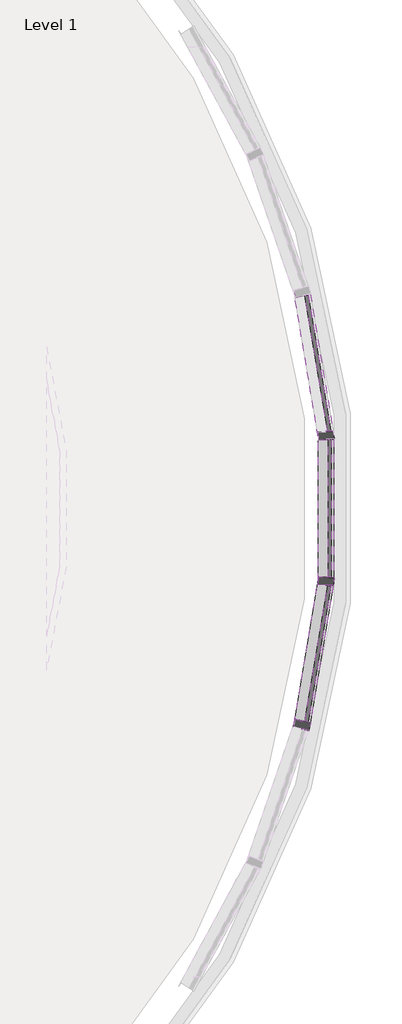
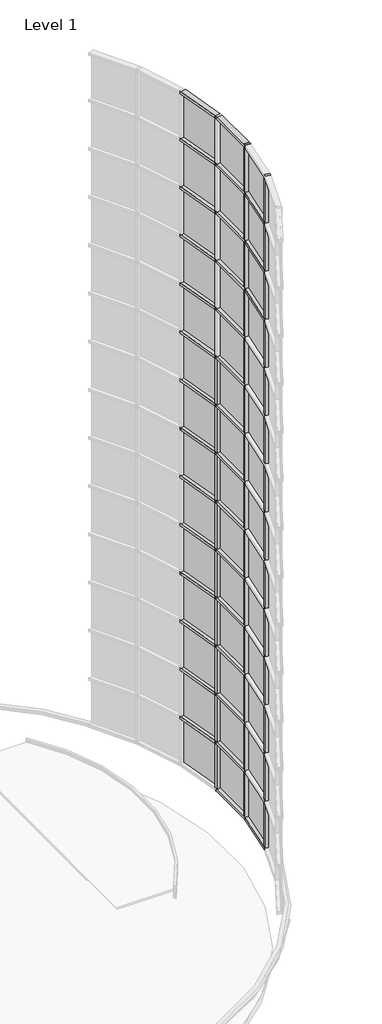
# One storey, part 8 of 20: 70 members, 42 plates.
"""IFC4 building model written with IfcOpenShell, lengths in millimetres."""

from ifc_helpers import new_model, si_unit, origin, place, context, project, spatial, transform, mapped, element, save
from components import member_68fe8548, member_f830fa99, member_935f61b8, system_panel_glazed_da602fa6, system_panel_glazed_77fd207e

model = new_model("IFC4")

# Units and contexts
model_context = context("Model", 3, world=origin())
ifc_project = project(units=[si_unit("LENGTHUNIT", "METRE", prefix="MILLI")], contexts=[model_context])

# Site, building, storey
site = spatial("IfcSite", under=ifc_project)
building = spatial("IfcBuilding", under=site)
storey = spatial("IfcBuildingStorey", under=building, Name="Level 1", Elevation=0.0)

# Members
placement = place(None, origin())
member_shape = member_68fe8548(model_context)
element("IfcMember", 1, ObjectType="Rectangular Mullion : 2.5\" x 5\" rectangular", at=placement, inside=storey, context=model_context, shape_type="MappedRepresentation", body=[
    mapped(member_shape, transform((25047.3123322, -1884.960282, 17983.2), x_axis=(0.0, 0.0, 1.0), y_axis=(-0.9863613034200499, -0.1645945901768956, 0.0), z_axis=(0.1645945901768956, -0.9863613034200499, 0.0))),
])
element("IfcMember", 2, ObjectType="Rectangular Mullion : 2.5\" x 5\" rectangular", at=placement, inside=storey, context=model_context, shape_type="MappedRepresentation", body=[
    mapped(member_shape, transform((25052.5382104, -3063.5930828, 17983.2), x_axis=(0.0, 0.0, 1.0), y_axis=(-1.0, 0.0, 0.0), z_axis=(0.0, -1.0, 0.0))),
])
element("IfcMember", 3, ObjectType="Rectangular Mullion : 2.5\" x 5\" rectangular", at=placement, inside=storey, context=model_context, shape_type="MappedRepresentation", body=[
    mapped(member_shape, transform((25052.5382104, -1948.0272534, 1092.2), x_axis=(0.0, 0.0, -1.0), y_axis=(-1.0, 0.0, 0.0), z_axis=(0.0, 1.0, 0.0))),
])
element("IfcMember", 4, ObjectType="Rectangular Mullion : 2.5\" x 5\" rectangular", at=placement, inside=storey, context=model_context, shape_type="MappedRepresentation", body=[
    mapped(member_shape, transform((25047.3123322, -3126.6600542, 1092.2), x_axis=(0.0, 0.0, -1.0), y_axis=(-0.9863613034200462, 0.16459459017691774, 0.0), z_axis=(0.16459459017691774, 0.9863613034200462, 0.0))),
])
member_2_shape = member_f830fa99(model_context)
element("IfcMember", 5, ObjectType="Rectangular Mullion : 2.5\" x 5\" rectangular", at=placement, inside=storey, context=model_context, shape_type="MappedRepresentation", body=[
    mapped(member_2_shape, transform((25047.3123322, -1884.960282, 2298.7), x_axis=(0.0, 0.0, 1.0), y_axis=(-0.9863613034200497, -0.16459459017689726, 0.0), z_axis=(0.16459459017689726, -0.9863613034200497, 0.0))),
])
element("IfcMember", 6, ObjectType="Rectangular Mullion : 2.5\" x 5\" rectangular", at=placement, inside=storey, context=model_context, shape_type="MappedRepresentation", body=[
    mapped(member_2_shape, transform((25052.5382104, -3063.5930828, 2298.7), x_axis=(0.0, 0.0, 1.0), y_axis=(-1.0, 0.0, 0.0), z_axis=(0.0, -1.0, 0.0))),
])
element("IfcMember", 7, ObjectType="Rectangular Mullion : 2.5\" x 5\" rectangular", at=placement, inside=storey, context=model_context, shape_type="MappedRepresentation", body=[
    mapped(member_2_shape, transform((25047.3123322, -1884.960282, 3505.2), x_axis=(0.0, 0.0, 1.0), y_axis=(-0.9863613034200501, -0.16459459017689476, 0.0), z_axis=(0.16459459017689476, -0.9863613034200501, 0.0))),
])
element("IfcMember", 8, ObjectType="Rectangular Mullion : 2.5\" x 5\" rectangular", at=placement, inside=storey, context=model_context, shape_type="MappedRepresentation", body=[
    mapped(member_2_shape, transform((25052.5382104, -3063.5930828, 3505.2), x_axis=(0.0, 0.0, 1.0), y_axis=(-1.0, 0.0, 0.0), z_axis=(0.0, -1.0, 0.0))),
])
element("IfcMember", 9, ObjectType="Rectangular Mullion : 2.5\" x 5\" rectangular", at=placement, inside=storey, context=model_context, shape_type="MappedRepresentation", body=[
    mapped(member_2_shape, transform((25047.3123322, -1884.960282, 4711.7), x_axis=(0.0, 0.0, 1.0), y_axis=(-0.9863613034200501, -0.16459459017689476, 0.0), z_axis=(0.16459459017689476, -0.9863613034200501, 0.0))),
])
element("IfcMember", 10, ObjectType="Rectangular Mullion : 2.5\" x 5\" rectangular", at=placement, inside=storey, context=model_context, shape_type="MappedRepresentation", body=[
    mapped(member_2_shape, transform((25052.5382104, -3063.5930828, 4711.7), x_axis=(0.0, 0.0, 1.0), y_axis=(-1.0, 0.0, 0.0), z_axis=(0.0, -1.0, 0.0))),
])
element("IfcMember", 11, ObjectType="Rectangular Mullion : 2.5\" x 5\" rectangular", at=placement, inside=storey, context=model_context, shape_type="MappedRepresentation", body=[
    mapped(member_2_shape, transform((25047.3123322, -1884.960282, 5918.2), x_axis=(0.0, 0.0, 1.0), y_axis=(-0.9863613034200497, -0.16459459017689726, 0.0), z_axis=(0.16459459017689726, -0.9863613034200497, 0.0))),
])
element("IfcMember", 12, ObjectType="Rectangular Mullion : 2.5\" x 5\" rectangular", at=placement, inside=storey, context=model_context, shape_type="MappedRepresentation", body=[
    mapped(member_2_shape, transform((25052.5382104, -3063.5930828, 5918.2), x_axis=(0.0, 0.0, 1.0), y_axis=(-1.0, 0.0, 0.0), z_axis=(0.0, -1.0, 0.0))),
])
element("IfcMember", 13, ObjectType="Rectangular Mullion : 2.5\" x 5\" rectangular", at=placement, inside=storey, context=model_context, shape_type="MappedRepresentation", body=[
    mapped(member_2_shape, transform((25047.3123322, -1884.960282, 7124.7), x_axis=(0.0, 0.0, 1.0), y_axis=(-0.9863613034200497, -0.16459459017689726, 0.0), z_axis=(0.16459459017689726, -0.9863613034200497, 0.0))),
])
element("IfcMember", 14, ObjectType="Rectangular Mullion : 2.5\" x 5\" rectangular", at=placement, inside=storey, context=model_context, shape_type="MappedRepresentation", body=[
    mapped(member_2_shape, transform((25052.5382104, -3063.5930828, 7124.7), x_axis=(0.0, 0.0, 1.0), y_axis=(-1.0, 0.0, 0.0), z_axis=(0.0, -1.0, 0.0))),
])
element("IfcMember", 15, ObjectType="Rectangular Mullion : 2.5\" x 5\" rectangular", at=placement, inside=storey, context=model_context, shape_type="MappedRepresentation", body=[
    mapped(member_2_shape, transform((25047.3123322, -1884.960282, 8331.2), x_axis=(0.0, 0.0, 1.0), y_axis=(-0.9863613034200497, -0.16459459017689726, 0.0), z_axis=(0.16459459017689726, -0.9863613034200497, 0.0))),
])
element("IfcMember", 16, ObjectType="Rectangular Mullion : 2.5\" x 5\" rectangular", at=placement, inside=storey, context=model_context, shape_type="MappedRepresentation", body=[
    mapped(member_2_shape, transform((25052.5382104, -3063.5930828, 8331.2), x_axis=(0.0, 0.0, 1.0), y_axis=(-1.0, 0.0, 0.0), z_axis=(0.0, -1.0, 0.0))),
])
element("IfcMember", 17, ObjectType="Rectangular Mullion : 2.5\" x 5\" rectangular", at=placement, inside=storey, context=model_context, shape_type="MappedRepresentation", body=[
    mapped(member_2_shape, transform((25047.3123322, -1884.960282, 9537.7), x_axis=(0.0, 0.0, 1.0), y_axis=(-0.9863613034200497, -0.16459459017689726, 0.0), z_axis=(0.16459459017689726, -0.9863613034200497, 0.0))),
])
element("IfcMember", 18, ObjectType="Rectangular Mullion : 2.5\" x 5\" rectangular", at=placement, inside=storey, context=model_context, shape_type="MappedRepresentation", body=[
    mapped(member_2_shape, transform((25052.5382104, -3063.5930828, 9537.7), x_axis=(0.0, 0.0, 1.0), y_axis=(-1.0, 0.0, 0.0), z_axis=(0.0, -1.0, 0.0))),
])
element("IfcMember", 19, ObjectType="Rectangular Mullion : 2.5\" x 5\" rectangular", at=placement, inside=storey, context=model_context, shape_type="MappedRepresentation", body=[
    mapped(member_2_shape, transform((25047.3123322, -1884.960282, 10744.2), x_axis=(0.0, 0.0, 1.0), y_axis=(-0.9863613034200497, -0.16459459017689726, 0.0), z_axis=(0.16459459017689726, -0.9863613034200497, 0.0))),
])
element("IfcMember", 20, ObjectType="Rectangular Mullion : 2.5\" x 5\" rectangular", at=placement, inside=storey, context=model_context, shape_type="MappedRepresentation", body=[
    mapped(member_2_shape, transform((25052.5382104, -3063.5930828, 10744.2), x_axis=(0.0, 0.0, 1.0), y_axis=(-1.0, 0.0, 0.0), z_axis=(0.0, -1.0, 0.0))),
])
element("IfcMember", 21, ObjectType="Rectangular Mullion : 2.5\" x 5\" rectangular", at=placement, inside=storey, context=model_context, shape_type="MappedRepresentation", body=[
    mapped(member_2_shape, transform((25047.3123322, -1884.960282, 11950.7), x_axis=(0.0, 0.0, 1.0), y_axis=(-0.9863613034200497, -0.16459459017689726, 0.0), z_axis=(0.16459459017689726, -0.9863613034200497, 0.0))),
])
element("IfcMember", 22, ObjectType="Rectangular Mullion : 2.5\" x 5\" rectangular", at=placement, inside=storey, context=model_context, shape_type="MappedRepresentation", body=[
    mapped(member_2_shape, transform((25052.5382104, -3063.5930828, 11950.7), x_axis=(0.0, 0.0, 1.0), y_axis=(-1.0, 0.0, 0.0), z_axis=(0.0, -1.0, 0.0))),
])
element("IfcMember", 23, ObjectType="Rectangular Mullion : 2.5\" x 5\" rectangular", at=placement, inside=storey, context=model_context, shape_type="MappedRepresentation", body=[
    mapped(member_2_shape, transform((25047.3123322, -1884.960282, 13157.2), x_axis=(0.0, 0.0, 1.0), y_axis=(-0.9863613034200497, -0.16459459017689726, 0.0), z_axis=(0.16459459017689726, -0.9863613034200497, 0.0))),
])
element("IfcMember", 24, ObjectType="Rectangular Mullion : 2.5\" x 5\" rectangular", at=placement, inside=storey, context=model_context, shape_type="MappedRepresentation", body=[
    mapped(member_2_shape, transform((25052.5382104, -3063.5930828, 13157.2), x_axis=(0.0, 0.0, 1.0), y_axis=(-1.0, 0.0, 0.0), z_axis=(0.0, -1.0, 0.0))),
])
element("IfcMember", 25, ObjectType="Rectangular Mullion : 2.5\" x 5\" rectangular", at=placement, inside=storey, context=model_context, shape_type="MappedRepresentation", body=[
    mapped(member_2_shape, transform((25047.3123322, -1884.960282, 14363.7), x_axis=(0.0, 0.0, 1.0), y_axis=(-0.9863613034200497, -0.16459459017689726, 0.0), z_axis=(0.16459459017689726, -0.9863613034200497, 0.0))),
])
element("IfcMember", 26, ObjectType="Rectangular Mullion : 2.5\" x 5\" rectangular", at=placement, inside=storey, context=model_context, shape_type="MappedRepresentation", body=[
    mapped(member_2_shape, transform((25052.5382104, -3063.5930828, 14363.7), x_axis=(0.0, 0.0, 1.0), y_axis=(-1.0, 0.0, 0.0), z_axis=(0.0, -1.0, 0.0))),
])
element("IfcMember", 27, ObjectType="Rectangular Mullion : 2.5\" x 5\" rectangular", at=placement, inside=storey, context=model_context, shape_type="MappedRepresentation", body=[
    mapped(member_2_shape, transform((24863.6962317, -4227.0110197, 14363.7), x_axis=(0.0, 0.0, 1.0), y_axis=(-0.9863613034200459, 0.1645945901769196, 0.0), z_axis=(-0.1645945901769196, -0.9863613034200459, 0.0))),
])
element("IfcMember", 28, ObjectType="Rectangular Mullion : 2.5\" x 5\" rectangular", at=placement, inside=storey, context=model_context, shape_type="MappedRepresentation", body=[
    mapped(member_2_shape, transform((25047.3123322, -1884.960282, 15570.2), x_axis=(0.0, 0.0, 1.0), y_axis=(-0.9863613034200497, -0.16459459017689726, 0.0), z_axis=(0.16459459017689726, -0.9863613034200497, 0.0))),
])
element("IfcMember", 29, ObjectType="Rectangular Mullion : 2.5\" x 5\" rectangular", at=placement, inside=storey, context=model_context, shape_type="MappedRepresentation", body=[
    mapped(member_2_shape, transform((25052.5382104, -3063.5930828, 15570.2), x_axis=(0.0, 0.0, 1.0), y_axis=(-1.0, 0.0, 0.0), z_axis=(0.0, -1.0, 0.0))),
])
element("IfcMember", 30, ObjectType="Rectangular Mullion : 2.5\" x 5\" rectangular", at=placement, inside=storey, context=model_context, shape_type="MappedRepresentation", body=[
    mapped(member_2_shape, transform((24863.6962317, -4227.0110197, 15570.2), x_axis=(0.0, 0.0, 1.0), y_axis=(-0.9863613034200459, 0.16459459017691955, 0.0), z_axis=(-0.16459459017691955, -0.9863613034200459, 0.0))),
])
element("IfcMember", 31, ObjectType="Rectangular Mullion : 2.5\" x 5\" rectangular", at=placement, inside=storey, context=model_context, shape_type="MappedRepresentation", body=[
    mapped(member_2_shape, transform((25047.3123322, -1884.960282, 16776.7), x_axis=(0.0, 0.0, 1.0), y_axis=(-0.9863613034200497, -0.16459459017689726, 0.0), z_axis=(0.16459459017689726, -0.9863613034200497, 0.0))),
])
element("IfcMember", 32, ObjectType="Rectangular Mullion : 2.5\" x 5\" rectangular", at=placement, inside=storey, context=model_context, shape_type="MappedRepresentation", body=[
    mapped(member_2_shape, transform((25052.5382104, -3063.5930828, 16776.7), x_axis=(0.0, 0.0, 1.0), y_axis=(-1.0, 0.0, 0.0), z_axis=(0.0, -1.0, 0.0))),
])
element("IfcMember", 33, ObjectType="Rectangular Mullion : 2.5\" x 5\" rectangular", at=placement, inside=storey, context=model_context, shape_type="MappedRepresentation", body=[
    mapped(member_2_shape, transform((24863.6962317, -4227.0110197, 16776.7), x_axis=(0.0, 0.0, 1.0), y_axis=(-0.9863613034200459, 0.16459459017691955, 0.0), z_axis=(-0.16459459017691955, -0.9863613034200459, 0.0))),
])
member_3_shape = member_935f61b8(model_context)
element("IfcMember", 34, ObjectType="Rectangular Mullion : 2.5\" x 5\" rectangular", at=placement, inside=storey, context=model_context, shape_type="MappedRepresentation", body=[
    mapped(member_3_shape, transform((25052.5382104, -1916.2772534, 1092.2), x_axis=(0.08257934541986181, -0.9965844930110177, 0.0), y_axis=(-0.9965844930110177, -0.08257934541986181, 0.0), z_axis=(0.0, 0.0, -1.0))),
])
element("IfcMember", 35, ObjectType="Rectangular Mullion : 2.5\" x 5\" rectangular", at=placement, inside=storey, context=model_context, shape_type="MappedRepresentation", body=[
    mapped(member_3_shape, transform((25052.5382104, -3095.3430828, 1092.2), x_axis=(-0.08257934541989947, -0.9965844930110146, 0.0), y_axis=(-0.9965844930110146, 0.08257934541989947, 0.0), z_axis=(0.0, 0.0, -1.0))),
])
element("IfcMember", 36, ObjectType="Rectangular Mullion : 2.5\" x 5\" rectangular", at=placement, inside=storey, context=model_context, shape_type="MappedRepresentation", body=[
    mapped(member_3_shape, transform((24858.4703534, -4258.3279911, 1092.2), x_axis=(-0.24548548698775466, -0.9694002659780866, 0.0), y_axis=(-0.9694002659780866, 0.24548548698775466, 0.0), z_axis=(0.0, 0.0, -1.0))),
])
element("IfcMember", 37, ObjectType="Rectangular Mullion : 2.5\" x 5\" rectangular", at=placement, inside=storey, context=model_context, shape_type="MappedRepresentation", body=[
    mapped(member_3_shape, transform((25052.5382104, -1916.2772534, 2298.7), x_axis=(0.0825793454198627, -0.9965844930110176, 0.0), y_axis=(-0.9965844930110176, -0.0825793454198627, 0.0), z_axis=(0.0, 0.0, -1.0))),
])
element("IfcMember", 38, ObjectType="Rectangular Mullion : 2.5\" x 5\" rectangular", at=placement, inside=storey, context=model_context, shape_type="MappedRepresentation", body=[
    mapped(member_3_shape, transform((25052.5382104, -3095.3430828, 2298.7), x_axis=(-0.0825793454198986, -0.9965844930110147, 0.0), y_axis=(-0.9965844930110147, 0.0825793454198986, 0.0), z_axis=(0.0, 0.0, -1.0))),
])
element("IfcMember", 39, ObjectType="Rectangular Mullion : 2.5\" x 5\" rectangular", at=placement, inside=storey, context=model_context, shape_type="MappedRepresentation", body=[
    mapped(member_3_shape, transform((24858.4703534, -4258.3279911, 2298.7), x_axis=(-0.24548548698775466, -0.9694002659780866, 0.0), y_axis=(-0.9694002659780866, 0.24548548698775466, 0.0), z_axis=(0.0, 0.0, -1.0))),
])
element("IfcMember", 40, ObjectType="Rectangular Mullion : 2.5\" x 5\" rectangular", at=placement, inside=storey, context=model_context, shape_type="MappedRepresentation", body=[
    mapped(member_3_shape, transform((25052.5382104, -1916.2772534, 3505.2), x_axis=(0.08257934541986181, -0.9965844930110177, 0.0), y_axis=(-0.9965844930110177, -0.08257934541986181, 0.0), z_axis=(0.0, 0.0, -1.0))),
])
element("IfcMember", 41, ObjectType="Rectangular Mullion : 2.5\" x 5\" rectangular", at=placement, inside=storey, context=model_context, shape_type="MappedRepresentation", body=[
    mapped(member_3_shape, transform((25052.5382104, -3095.3430828, 3505.2), x_axis=(-0.0825793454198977, -0.9965844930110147, 0.0), y_axis=(-0.9965844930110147, 0.0825793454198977, 0.0), z_axis=(0.0, 0.0, -1.0))),
])
element("IfcMember", 42, ObjectType="Rectangular Mullion : 2.5\" x 5\" rectangular", at=placement, inside=storey, context=model_context, shape_type="MappedRepresentation", body=[
    mapped(member_3_shape, transform((24858.4703534, -4258.3279911, 3505.2), x_axis=(-0.24548548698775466, -0.9694002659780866, 0.0), y_axis=(-0.9694002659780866, 0.24548548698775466, 0.0), z_axis=(0.0, 0.0, -1.0))),
])
element("IfcMember", 43, ObjectType="Rectangular Mullion : 2.5\" x 5\" rectangular", at=placement, inside=storey, context=model_context, shape_type="MappedRepresentation", body=[
    mapped(member_3_shape, transform((25052.5382104, -1916.2772534, 4711.7), x_axis=(0.08257934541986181, -0.9965844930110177, 0.0), y_axis=(-0.9965844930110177, -0.08257934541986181, 0.0), z_axis=(0.0, 0.0, -1.0))),
])
element("IfcMember", 44, ObjectType="Rectangular Mullion : 2.5\" x 5\" rectangular", at=placement, inside=storey, context=model_context, shape_type="MappedRepresentation", body=[
    mapped(member_3_shape, transform((25052.5382104, -3095.3430828, 4711.7), x_axis=(-0.08257934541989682, -0.9965844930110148, 0.0), y_axis=(-0.9965844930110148, 0.08257934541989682, 0.0), z_axis=(0.0, 0.0, -1.0))),
])
element("IfcMember", 45, ObjectType="Rectangular Mullion : 2.5\" x 5\" rectangular", at=placement, inside=storey, context=model_context, shape_type="MappedRepresentation", body=[
    mapped(member_3_shape, transform((24858.4703534, -4258.3279911, 4711.7), x_axis=(-0.24548548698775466, -0.9694002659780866, 0.0), y_axis=(-0.9694002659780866, 0.24548548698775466, 0.0), z_axis=(0.0, 0.0, -1.0))),
])
element("IfcMember", 46, ObjectType="Rectangular Mullion : 2.5\" x 5\" rectangular", at=placement, inside=storey, context=model_context, shape_type="MappedRepresentation", body=[
    mapped(member_3_shape, transform((25052.5382104, -1916.2772534, 5918.2), x_axis=(0.0825793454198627, -0.9965844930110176, 0.0), y_axis=(-0.9965844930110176, -0.0825793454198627, 0.0), z_axis=(0.0, 0.0, -1.0))),
])
element("IfcMember", 47, ObjectType="Rectangular Mullion : 2.5\" x 5\" rectangular", at=placement, inside=storey, context=model_context, shape_type="MappedRepresentation", body=[
    mapped(member_3_shape, transform((25052.5382104, -3095.3430828, 5918.2), x_axis=(-0.08257934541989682, -0.9965844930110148, 0.0), y_axis=(-0.9965844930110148, 0.08257934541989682, 0.0), z_axis=(0.0, 0.0, -1.0))),
])
element("IfcMember", 48, ObjectType="Rectangular Mullion : 2.5\" x 5\" rectangular", at=placement, inside=storey, context=model_context, shape_type="MappedRepresentation", body=[
    mapped(member_3_shape, transform((24858.4703534, -4258.3279911, 5918.2), x_axis=(-0.24548548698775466, -0.9694002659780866, 0.0), y_axis=(-0.9694002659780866, 0.24548548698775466, 0.0), z_axis=(0.0, 0.0, -1.0))),
])
element("IfcMember", 49, ObjectType="Rectangular Mullion : 2.5\" x 5\" rectangular", at=placement, inside=storey, context=model_context, shape_type="MappedRepresentation", body=[
    mapped(member_3_shape, transform((25052.5382104, -1916.2772534, 7124.7), x_axis=(0.0825793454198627, -0.9965844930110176, 0.0), y_axis=(-0.9965844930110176, -0.0825793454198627, 0.0), z_axis=(0.0, 0.0, -1.0))),
])
element("IfcMember", 50, ObjectType="Rectangular Mullion : 2.5\" x 5\" rectangular", at=placement, inside=storey, context=model_context, shape_type="MappedRepresentation", body=[
    mapped(member_3_shape, transform((25052.5382104, -3095.3430828, 7124.7), x_axis=(-0.0825793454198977, -0.9965844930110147, 0.0), y_axis=(-0.9965844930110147, 0.0825793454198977, 0.0), z_axis=(0.0, 0.0, -1.0))),
])
element("IfcMember", 51, ObjectType="Rectangular Mullion : 2.5\" x 5\" rectangular", at=placement, inside=storey, context=model_context, shape_type="MappedRepresentation", body=[
    mapped(member_3_shape, transform((24858.4703534, -4258.3279911, 7124.7), x_axis=(-0.2454854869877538, -0.9694002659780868, 0.0), y_axis=(-0.9694002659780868, 0.2454854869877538, 0.0), z_axis=(0.0, 0.0, -1.0))),
])
element("IfcMember", 52, ObjectType="Rectangular Mullion : 2.5\" x 5\" rectangular", at=placement, inside=storey, context=model_context, shape_type="MappedRepresentation", body=[
    mapped(member_3_shape, transform((25052.5382104, -1916.2772534, 8331.2), x_axis=(0.0825793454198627, -0.9965844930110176, 0.0), y_axis=(-0.9965844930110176, -0.0825793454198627, 0.0), z_axis=(0.0, 0.0, -1.0))),
])
element("IfcMember", 53, ObjectType="Rectangular Mullion : 2.5\" x 5\" rectangular", at=placement, inside=storey, context=model_context, shape_type="MappedRepresentation", body=[
    mapped(member_3_shape, transform((25052.5382104, -3095.3430828, 8331.2), x_axis=(-0.0825793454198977, -0.9965844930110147, 0.0), y_axis=(-0.9965844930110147, 0.0825793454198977, 0.0), z_axis=(0.0, 0.0, -1.0))),
])
element("IfcMember", 54, ObjectType="Rectangular Mullion : 2.5\" x 5\" rectangular", at=placement, inside=storey, context=model_context, shape_type="MappedRepresentation", body=[
    mapped(member_3_shape, transform((24858.4703534, -4258.3279911, 8331.2), x_axis=(-0.2454854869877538, -0.9694002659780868, 0.0), y_axis=(-0.9694002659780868, 0.2454854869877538, 0.0), z_axis=(0.0, 0.0, -1.0))),
])
element("IfcMember", 55, ObjectType="Rectangular Mullion : 2.5\" x 5\" rectangular", at=placement, inside=storey, context=model_context, shape_type="MappedRepresentation", body=[
    mapped(member_3_shape, transform((25052.5382104, -1916.2772534, 9537.7), x_axis=(0.0825793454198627, -0.9965844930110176, 0.0), y_axis=(-0.9965844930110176, -0.0825793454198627, 0.0), z_axis=(0.0, 0.0, -1.0))),
])
element("IfcMember", 56, ObjectType="Rectangular Mullion : 2.5\" x 5\" rectangular", at=placement, inside=storey, context=model_context, shape_type="MappedRepresentation", body=[
    mapped(member_3_shape, transform((25052.5382104, -3095.3430828, 9537.7), x_axis=(-0.0825793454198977, -0.9965844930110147, 0.0), y_axis=(-0.9965844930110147, 0.0825793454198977, 0.0), z_axis=(0.0, 0.0, -1.0))),
])
element("IfcMember", 57, ObjectType="Rectangular Mullion : 2.5\" x 5\" rectangular", at=placement, inside=storey, context=model_context, shape_type="MappedRepresentation", body=[
    mapped(member_3_shape, transform((24858.4703534, -4258.3279911, 9537.7), x_axis=(-0.2454854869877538, -0.9694002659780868, 0.0), y_axis=(-0.9694002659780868, 0.2454854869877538, 0.0), z_axis=(0.0, 0.0, -1.0))),
])
element("IfcMember", 58, ObjectType="Rectangular Mullion : 2.5\" x 5\" rectangular", at=placement, inside=storey, context=model_context, shape_type="MappedRepresentation", body=[
    mapped(member_3_shape, transform((25052.5382104, -1916.2772534, 10744.2), x_axis=(0.0825793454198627, -0.9965844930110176, 0.0), y_axis=(-0.9965844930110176, -0.0825793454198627, 0.0), z_axis=(0.0, 0.0, -1.0))),
])
element("IfcMember", 59, ObjectType="Rectangular Mullion : 2.5\" x 5\" rectangular", at=placement, inside=storey, context=model_context, shape_type="MappedRepresentation", body=[
    mapped(member_3_shape, transform((25052.5382104, -3095.3430828, 10744.2), x_axis=(-0.0825793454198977, -0.9965844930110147, 0.0), y_axis=(-0.9965844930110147, 0.0825793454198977, 0.0), z_axis=(0.0, 0.0, -1.0))),
])
element("IfcMember", 60, ObjectType="Rectangular Mullion : 2.5\" x 5\" rectangular", at=placement, inside=storey, context=model_context, shape_type="MappedRepresentation", body=[
    mapped(member_3_shape, transform((24858.4703534, -4258.3279911, 10744.2), x_axis=(-0.2454854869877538, -0.9694002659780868, 0.0), y_axis=(-0.9694002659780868, 0.2454854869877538, 0.0), z_axis=(0.0, 0.0, -1.0))),
])
element("IfcMember", 61, ObjectType="Rectangular Mullion : 2.5\" x 5\" rectangular", at=placement, inside=storey, context=model_context, shape_type="MappedRepresentation", body=[
    mapped(member_3_shape, transform((25052.5382104, -3095.3430828, 11950.7), x_axis=(-0.0825793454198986, -0.9965844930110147, 0.0), y_axis=(-0.9965844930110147, 0.0825793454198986, 0.0), z_axis=(0.0, 0.0, -1.0))),
])
element("IfcMember", 62, ObjectType="Rectangular Mullion : 2.5\" x 5\" rectangular", at=placement, inside=storey, context=model_context, shape_type="MappedRepresentation", body=[
    mapped(member_3_shape, transform((24858.4703534, -4258.3279911, 11950.7), x_axis=(-0.2454854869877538, -0.9694002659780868, 0.0), y_axis=(-0.9694002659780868, 0.2454854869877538, 0.0), z_axis=(0.0, 0.0, -1.0))),
])
element("IfcMember", 63, ObjectType="Rectangular Mullion : 2.5\" x 5\" rectangular", at=placement, inside=storey, context=model_context, shape_type="MappedRepresentation", body=[
    mapped(member_3_shape, transform((25052.5382104, -3095.3430828, 13157.2), x_axis=(-0.0825793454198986, -0.9965844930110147, 0.0), y_axis=(-0.9965844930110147, 0.0825793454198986, 0.0), z_axis=(0.0, 0.0, -1.0))),
])
element("IfcMember", 64, ObjectType="Rectangular Mullion : 2.5\" x 5\" rectangular", at=placement, inside=storey, context=model_context, shape_type="MappedRepresentation", body=[
    mapped(member_3_shape, transform((24858.4703534, -4258.3279911, 13157.2), x_axis=(-0.2454854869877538, -0.9694002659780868, 0.0), y_axis=(-0.9694002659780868, 0.2454854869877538, 0.0), z_axis=(0.0, 0.0, -1.0))),
])
element("IfcMember", 65, ObjectType="Rectangular Mullion : 2.5\" x 5\" rectangular", at=placement, inside=storey, context=model_context, shape_type="MappedRepresentation", body=[
    mapped(member_3_shape, transform((25052.5382104, -3095.3430828, 14363.7), x_axis=(-0.0825793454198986, -0.9965844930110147, 0.0), y_axis=(-0.9965844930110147, 0.0825793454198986, 0.0), z_axis=(0.0, 0.0, -1.0))),
])
element("IfcMember", 66, ObjectType="Rectangular Mullion : 2.5\" x 5\" rectangular", at=placement, inside=storey, context=model_context, shape_type="MappedRepresentation", body=[
    mapped(member_3_shape, transform((24858.4703534, -4258.3279911, 14363.7), x_axis=(-0.2454854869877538, -0.9694002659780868, 0.0), y_axis=(-0.9694002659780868, 0.2454854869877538, 0.0), z_axis=(0.0, 0.0, -1.0))),
])
element("IfcMember", 67, ObjectType="Rectangular Mullion : 2.5\" x 5\" rectangular", at=placement, inside=storey, context=model_context, shape_type="MappedRepresentation", body=[
    mapped(member_3_shape, transform((25052.5382104, -3095.3430828, 15570.2), x_axis=(-0.08257934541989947, -0.9965844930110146, 0.0), y_axis=(-0.9965844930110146, 0.08257934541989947, 0.0), z_axis=(0.0, 0.0, -1.0))),
])
element("IfcMember", 68, ObjectType="Rectangular Mullion : 2.5\" x 5\" rectangular", at=placement, inside=storey, context=model_context, shape_type="MappedRepresentation", body=[
    mapped(member_3_shape, transform((24858.4703534, -4258.3279911, 15570.2), x_axis=(-0.2454854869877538, -0.9694002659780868, 0.0), y_axis=(-0.9694002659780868, 0.2454854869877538, 0.0), z_axis=(0.0, 0.0, -1.0))),
])
element("IfcMember", 69, ObjectType="Rectangular Mullion : 2.5\" x 5\" rectangular", at=placement, inside=storey, context=model_context, shape_type="MappedRepresentation", body=[
    mapped(member_3_shape, transform((25052.5382104, -3095.3430828, 16776.7), x_axis=(-0.08257934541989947, -0.9965844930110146, 0.0), y_axis=(-0.9965844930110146, 0.08257934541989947, 0.0), z_axis=(0.0, 0.0, -1.0))),
])
element("IfcMember", 70, ObjectType="Rectangular Mullion : 2.5\" x 5\" rectangular", at=placement, inside=storey, context=model_context, shape_type="MappedRepresentation", body=[
    mapped(member_3_shape, transform((24858.4703534, -4258.3279911, 16776.7), x_axis=(-0.2454854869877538, -0.9694002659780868, 0.0), y_axis=(-0.9694002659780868, 0.2454854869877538, 0.0), z_axis=(0.0, 0.0, -1.0))),
])

# Plates
system_panel_glazed_shape = system_panel_glazed_da602fa6(model_context)
element("IfcPlate", 71, ObjectType="System Panel : Glazed", at=placement, inside=storey, context=model_context, shape_type="MappedRepresentation", body=[
    mapped(system_panel_glazed_shape, transform((24955.5042819, -1334.7847992, 1155.7), x_axis=(0.16459459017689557, -0.9863613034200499, 0.0), y_axis=(0.9863613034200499, 0.16459459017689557, 0.0), z_axis=(0.0, 0.0, 1.0))),
])
element("IfcPlate", 72, ObjectType="System Panel : Glazed", at=placement, inside=storey, context=model_context, shape_type="MappedRepresentation", body=[
    mapped(system_panel_glazed_shape, transform((25052.5382104, -2505.8101681, 1155.7), x_axis=(0.0, -1.0, 0.0), y_axis=(1.0, 0.0, 0.0), z_axis=(0.0, 0.0, 1.0))),
])
element("IfcPlate", 73, ObjectType="System Panel : Glazed", at=placement, inside=storey, context=model_context, shape_type="MappedRepresentation", body=[
    mapped(system_panel_glazed_shape, transform((24955.5042819, -3676.8355369, 1155.7), x_axis=(-0.16459459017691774, -0.9863613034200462, 0.0), y_axis=(0.9863613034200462, -0.16459459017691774, 0.0), z_axis=(0.0, 0.0, 1.0))),
])
element("IfcPlate", 74, ObjectType="System Panel : Glazed", at=placement, inside=storey, context=model_context, shape_type="MappedRepresentation", body=[
    mapped(system_panel_glazed_shape, transform((24955.5042819, -1334.7847992, 16808.45), x_axis=(0.1645945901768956, -0.9863613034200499, 0.0), y_axis=(0.9863613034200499, 0.1645945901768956, 0.0), z_axis=(0.0, 0.0, 1.0))),
])
element("IfcPlate", 75, ObjectType="System Panel : Glazed", at=placement, inside=storey, context=model_context, shape_type="MappedRepresentation", body=[
    mapped(system_panel_glazed_shape, transform((25052.5382104, -2505.8101681, 16808.45), x_axis=(0.0, -1.0, 0.0), y_axis=(1.0, 0.0, 0.0), z_axis=(0.0, 0.0, 1.0))),
])
element("IfcPlate", 76, ObjectType="System Panel : Glazed", at=placement, inside=storey, context=model_context, shape_type="MappedRepresentation", body=[
    mapped(system_panel_glazed_shape, transform((24955.5042819, -3676.8355369, 16808.45), x_axis=(-0.16459459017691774, -0.9863613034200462, 0.0), y_axis=(0.9863613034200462, -0.16459459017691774, 0.0), z_axis=(0.0, 0.0, 1.0))),
])
system_panel_glazed_2_shape = system_panel_glazed_77fd207e(model_context)
element("IfcPlate", 77, ObjectType="System Panel : Glazed", at=placement, inside=storey, context=model_context, shape_type="MappedRepresentation", body=[
    mapped(system_panel_glazed_2_shape, transform((24955.5042819, -1334.7847992, 2330.45), x_axis=(0.1645945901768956, -0.9863613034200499, 0.0), y_axis=(0.9863613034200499, 0.1645945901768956, 0.0), z_axis=(0.0, 0.0, 1.0))),
])
element("IfcPlate", 78, ObjectType="System Panel : Glazed", at=placement, inside=storey, context=model_context, shape_type="MappedRepresentation", body=[
    mapped(system_panel_glazed_2_shape, transform((25052.5382104, -2505.8101681, 2330.45), x_axis=(0.0, -1.0, 0.0), y_axis=(1.0, 0.0, 0.0), z_axis=(0.0, 0.0, 1.0))),
])
element("IfcPlate", 79, ObjectType="System Panel : Glazed", at=placement, inside=storey, context=model_context, shape_type="MappedRepresentation", body=[
    mapped(system_panel_glazed_2_shape, transform((24955.5042819, -3676.8355369, 2330.45), x_axis=(-0.16459459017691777, -0.9863613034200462, 0.0), y_axis=(0.9863613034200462, -0.16459459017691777, 0.0), z_axis=(0.0, 0.0, 1.0))),
])
element("IfcPlate", 80, ObjectType="System Panel : Glazed", at=placement, inside=storey, context=model_context, shape_type="MappedRepresentation", body=[
    mapped(system_panel_glazed_2_shape, transform((24955.5042819, -1334.7847992, 3536.95), x_axis=(0.1645945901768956, -0.9863613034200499, 0.0), y_axis=(0.9863613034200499, 0.1645945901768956, 0.0), z_axis=(0.0, 0.0, 1.0))),
])
element("IfcPlate", 81, ObjectType="System Panel : Glazed", at=placement, inside=storey, context=model_context, shape_type="MappedRepresentation", body=[
    mapped(system_panel_glazed_2_shape, transform((25052.5382104, -2505.8101681, 3536.95), x_axis=(0.0, -1.0, 0.0), y_axis=(1.0, 0.0, 0.0), z_axis=(0.0, 0.0, 1.0))),
])
element("IfcPlate", 82, ObjectType="System Panel : Glazed", at=placement, inside=storey, context=model_context, shape_type="MappedRepresentation", body=[
    mapped(system_panel_glazed_2_shape, transform((24955.5042819, -3676.8355369, 3536.95), x_axis=(-0.16459459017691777, -0.9863613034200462, 0.0), y_axis=(0.9863613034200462, -0.16459459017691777, 0.0), z_axis=(0.0, 0.0, 1.0))),
])
element("IfcPlate", 83, ObjectType="System Panel : Glazed", at=placement, inside=storey, context=model_context, shape_type="MappedRepresentation", body=[
    mapped(system_panel_glazed_2_shape, transform((24955.5042819, -1334.7847992, 4743.45), x_axis=(0.1645945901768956, -0.9863613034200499, 0.0), y_axis=(0.9863613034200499, 0.1645945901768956, 0.0), z_axis=(0.0, 0.0, 1.0))),
])
element("IfcPlate", 84, ObjectType="System Panel : Glazed", at=placement, inside=storey, context=model_context, shape_type="MappedRepresentation", body=[
    mapped(system_panel_glazed_2_shape, transform((25052.5382104, -2505.8101681, 4743.45), x_axis=(0.0, -1.0, 0.0), y_axis=(1.0, 0.0, 0.0), z_axis=(0.0, 0.0, 1.0))),
])
element("IfcPlate", 85, ObjectType="System Panel : Glazed", at=placement, inside=storey, context=model_context, shape_type="MappedRepresentation", body=[
    mapped(system_panel_glazed_2_shape, transform((24955.5042819, -3676.8355369, 4743.45), x_axis=(-0.16459459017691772, -0.9863613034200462, 0.0), y_axis=(0.9863613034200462, -0.16459459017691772, 0.0), z_axis=(0.0, 0.0, 1.0))),
])
element("IfcPlate", 86, ObjectType="System Panel : Glazed", at=placement, inside=storey, context=model_context, shape_type="MappedRepresentation", body=[
    mapped(system_panel_glazed_2_shape, transform((24955.5042819, -1334.7847992, 5949.95), x_axis=(0.1645945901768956, -0.9863613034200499, 0.0), y_axis=(0.9863613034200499, 0.1645945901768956, 0.0), z_axis=(0.0, 0.0, 1.0))),
])
element("IfcPlate", 87, ObjectType="System Panel : Glazed", at=placement, inside=storey, context=model_context, shape_type="MappedRepresentation", body=[
    mapped(system_panel_glazed_2_shape, transform((25052.5382104, -2505.8101681, 5949.95), x_axis=(0.0, -1.0, 0.0), y_axis=(1.0, 0.0, 0.0), z_axis=(0.0, 0.0, 1.0))),
])
element("IfcPlate", 88, ObjectType="System Panel : Glazed", at=placement, inside=storey, context=model_context, shape_type="MappedRepresentation", body=[
    mapped(system_panel_glazed_2_shape, transform((24955.5042819, -3676.8355369, 5949.95), x_axis=(-0.16459459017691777, -0.9863613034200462, 0.0), y_axis=(0.9863613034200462, -0.16459459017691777, 0.0), z_axis=(0.0, 0.0, 1.0))),
])
element("IfcPlate", 89, ObjectType="System Panel : Glazed", at=placement, inside=storey, context=model_context, shape_type="MappedRepresentation", body=[
    mapped(system_panel_glazed_2_shape, transform((24955.5042819, -1334.7847992, 7156.45), x_axis=(0.1645945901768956, -0.9863613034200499, 0.0), y_axis=(0.9863613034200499, 0.1645945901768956, 0.0), z_axis=(0.0, 0.0, 1.0))),
])
element("IfcPlate", 90, ObjectType="System Panel : Glazed", at=placement, inside=storey, context=model_context, shape_type="MappedRepresentation", body=[
    mapped(system_panel_glazed_2_shape, transform((25052.5382104, -2505.8101681, 7156.45), x_axis=(0.0, -1.0, 0.0), y_axis=(1.0, 0.0, 0.0), z_axis=(0.0, 0.0, 1.0))),
])
element("IfcPlate", 91, ObjectType="System Panel : Glazed", at=placement, inside=storey, context=model_context, shape_type="MappedRepresentation", body=[
    mapped(system_panel_glazed_2_shape, transform((24955.5042819, -3676.8355369, 7156.45), x_axis=(-0.16459459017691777, -0.9863613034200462, 0.0), y_axis=(0.9863613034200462, -0.16459459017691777, 0.0), z_axis=(0.0, 0.0, 1.0))),
])
element("IfcPlate", 92, ObjectType="System Panel : Glazed", at=placement, inside=storey, context=model_context, shape_type="MappedRepresentation", body=[
    mapped(system_panel_glazed_2_shape, transform((24955.5042819, -1334.7847992, 8362.95), x_axis=(0.1645945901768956, -0.9863613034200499, 0.0), y_axis=(0.9863613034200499, 0.1645945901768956, 0.0), z_axis=(0.0, 0.0, 1.0))),
])
element("IfcPlate", 93, ObjectType="System Panel : Glazed", at=placement, inside=storey, context=model_context, shape_type="MappedRepresentation", body=[
    mapped(system_panel_glazed_2_shape, transform((25052.5382104, -2505.8101681, 8362.95), x_axis=(0.0, -1.0, 0.0), y_axis=(1.0, 0.0, 0.0), z_axis=(0.0, 0.0, 1.0))),
])
element("IfcPlate", 94, ObjectType="System Panel : Glazed", at=placement, inside=storey, context=model_context, shape_type="MappedRepresentation", body=[
    mapped(system_panel_glazed_2_shape, transform((24955.5042819, -3676.8355369, 8362.95), x_axis=(-0.16459459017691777, -0.9863613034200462, 0.0), y_axis=(0.9863613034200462, -0.16459459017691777, 0.0), z_axis=(0.0, 0.0, 1.0))),
])
element("IfcPlate", 95, ObjectType="System Panel : Glazed", at=placement, inside=storey, context=model_context, shape_type="MappedRepresentation", body=[
    mapped(system_panel_glazed_2_shape, transform((24955.5042819, -1334.7847992, 9569.45), x_axis=(0.1645945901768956, -0.9863613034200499, 0.0), y_axis=(0.9863613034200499, 0.1645945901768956, 0.0), z_axis=(0.0, 0.0, 1.0))),
])
element("IfcPlate", 96, ObjectType="System Panel : Glazed", at=placement, inside=storey, context=model_context, shape_type="MappedRepresentation", body=[
    mapped(system_panel_glazed_2_shape, transform((25052.5382104, -2505.8101681, 9569.45), x_axis=(0.0, -1.0, 0.0), y_axis=(1.0, 0.0, 0.0), z_axis=(0.0, 0.0, 1.0))),
])
element("IfcPlate", 97, ObjectType="System Panel : Glazed", at=placement, inside=storey, context=model_context, shape_type="MappedRepresentation", body=[
    mapped(system_panel_glazed_2_shape, transform((24955.5042819, -3676.8355369, 9569.45), x_axis=(-0.16459459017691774, -0.9863613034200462, 0.0), y_axis=(0.9863613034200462, -0.16459459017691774, 0.0), z_axis=(0.0, 0.0, 1.0))),
])
element("IfcPlate", 98, ObjectType="System Panel : Glazed", at=placement, inside=storey, context=model_context, shape_type="MappedRepresentation", body=[
    mapped(system_panel_glazed_2_shape, transform((24955.5042819, -1334.7847992, 10775.95), x_axis=(0.16459459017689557, -0.9863613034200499, 0.0), y_axis=(0.9863613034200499, 0.16459459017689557, 0.0), z_axis=(0.0, 0.0, 1.0))),
])
element("IfcPlate", 99, ObjectType="System Panel : Glazed", at=placement, inside=storey, context=model_context, shape_type="MappedRepresentation", body=[
    mapped(system_panel_glazed_2_shape, transform((25052.5382104, -2505.8101681, 10775.95), x_axis=(0.0, -1.0, 0.0), y_axis=(1.0, 0.0, 0.0), z_axis=(0.0, 0.0, 1.0))),
])
element("IfcPlate", 100, ObjectType="System Panel : Glazed", at=placement, inside=storey, context=model_context, shape_type="MappedRepresentation", body=[
    mapped(system_panel_glazed_2_shape, transform((24955.5042819, -3676.8355369, 10775.95), x_axis=(-0.16459459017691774, -0.9863613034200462, 0.0), y_axis=(0.9863613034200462, -0.16459459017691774, 0.0), z_axis=(0.0, 0.0, 1.0))),
])
element("IfcPlate", 101, ObjectType="System Panel : Glazed", at=placement, inside=storey, context=model_context, shape_type="MappedRepresentation", body=[
    mapped(system_panel_glazed_2_shape, transform((24955.5042819, -1334.7847992, 11982.45), x_axis=(0.16459459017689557, -0.9863613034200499, 0.0), y_axis=(0.9863613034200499, 0.16459459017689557, 0.0), z_axis=(0.0, 0.0, 1.0))),
])
element("IfcPlate", 102, ObjectType="System Panel : Glazed", at=placement, inside=storey, context=model_context, shape_type="MappedRepresentation", body=[
    mapped(system_panel_glazed_2_shape, transform((25052.5382104, -2505.8101681, 11982.45), x_axis=(0.0, -1.0, 0.0), y_axis=(1.0, 0.0, 0.0), z_axis=(0.0, 0.0, 1.0))),
])
element("IfcPlate", 103, ObjectType="System Panel : Glazed", at=placement, inside=storey, context=model_context, shape_type="MappedRepresentation", body=[
    mapped(system_panel_glazed_2_shape, transform((24955.5042819, -3676.8355369, 11982.45), x_axis=(-0.16459459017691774, -0.9863613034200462, 0.0), y_axis=(0.9863613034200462, -0.16459459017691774, 0.0), z_axis=(0.0, 0.0, 1.0))),
])
element("IfcPlate", 104, ObjectType="System Panel : Glazed", at=placement, inside=storey, context=model_context, shape_type="MappedRepresentation", body=[
    mapped(system_panel_glazed_2_shape, transform((24955.5042819, -1334.7847992, 13188.95), x_axis=(0.16459459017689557, -0.9863613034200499, 0.0), y_axis=(0.9863613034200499, 0.16459459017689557, 0.0), z_axis=(0.0, 0.0, 1.0))),
])
element("IfcPlate", 105, ObjectType="System Panel : Glazed", at=placement, inside=storey, context=model_context, shape_type="MappedRepresentation", body=[
    mapped(system_panel_glazed_2_shape, transform((25052.5382104, -2505.8101681, 13188.95), x_axis=(0.0, -1.0, 0.0), y_axis=(1.0, 0.0, 0.0), z_axis=(0.0, 0.0, 1.0))),
])
element("IfcPlate", 106, ObjectType="System Panel : Glazed", at=placement, inside=storey, context=model_context, shape_type="MappedRepresentation", body=[
    mapped(system_panel_glazed_2_shape, transform((24955.5042819, -3676.8355369, 13188.95), x_axis=(-0.16459459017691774, -0.9863613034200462, 0.0), y_axis=(0.9863613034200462, -0.16459459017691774, 0.0), z_axis=(0.0, 0.0, 1.0))),
])
element("IfcPlate", 107, ObjectType="System Panel : Glazed", at=placement, inside=storey, context=model_context, shape_type="MappedRepresentation", body=[
    mapped(system_panel_glazed_2_shape, transform((24955.5042819, -1334.7847992, 14395.45), x_axis=(0.16459459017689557, -0.9863613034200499, 0.0), y_axis=(0.9863613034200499, 0.16459459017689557, 0.0), z_axis=(0.0, 0.0, 1.0))),
])
element("IfcPlate", 108, ObjectType="System Panel : Glazed", at=placement, inside=storey, context=model_context, shape_type="MappedRepresentation", body=[
    mapped(system_panel_glazed_2_shape, transform((25052.5382104, -2505.8101681, 14395.45), x_axis=(0.0, -1.0, 0.0), y_axis=(1.0, 0.0, 0.0), z_axis=(0.0, 0.0, 1.0))),
])
element("IfcPlate", 109, ObjectType="System Panel : Glazed", at=placement, inside=storey, context=model_context, shape_type="MappedRepresentation", body=[
    mapped(system_panel_glazed_2_shape, transform((24955.5042819, -3676.8355369, 14395.45), x_axis=(-0.16459459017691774, -0.9863613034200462, 0.0), y_axis=(0.9863613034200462, -0.16459459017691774, 0.0), z_axis=(0.0, 0.0, 1.0))),
])
element("IfcPlate", 110, ObjectType="System Panel : Glazed", at=placement, inside=storey, context=model_context, shape_type="MappedRepresentation", body=[
    mapped(system_panel_glazed_2_shape, transform((24955.5042819, -1334.7847992, 15601.95), x_axis=(0.16459459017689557, -0.9863613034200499, 0.0), y_axis=(0.9863613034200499, 0.16459459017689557, 0.0), z_axis=(0.0, 0.0, 1.0))),
])
element("IfcPlate", 111, ObjectType="System Panel : Glazed", at=placement, inside=storey, context=model_context, shape_type="MappedRepresentation", body=[
    mapped(system_panel_glazed_2_shape, transform((25052.5382104, -2505.8101681, 15601.95), x_axis=(0.0, -1.0, 0.0), y_axis=(1.0, 0.0, 0.0), z_axis=(0.0, 0.0, 1.0))),
])
element("IfcPlate", 112, ObjectType="System Panel : Glazed", at=placement, inside=storey, context=model_context, shape_type="MappedRepresentation", body=[
    mapped(system_panel_glazed_2_shape, transform((24955.5042819, -3676.8355369, 15601.95), x_axis=(-0.16459459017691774, -0.9863613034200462, 0.0), y_axis=(0.9863613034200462, -0.16459459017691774, 0.0), z_axis=(0.0, 0.0, 1.0))),
])

save(model, "model.ifc")
